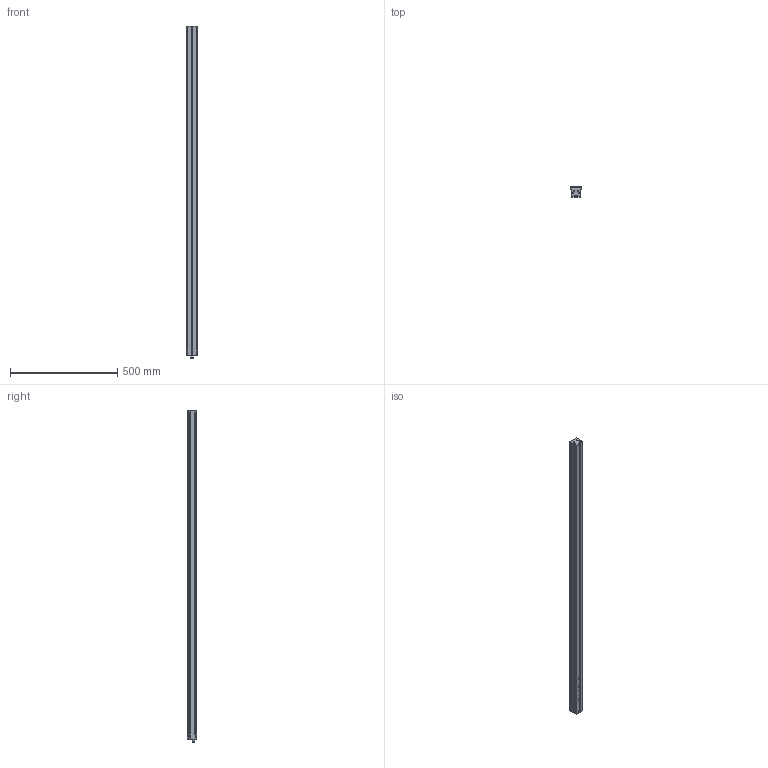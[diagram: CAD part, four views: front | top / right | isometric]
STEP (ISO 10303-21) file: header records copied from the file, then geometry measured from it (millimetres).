
FILE_DESCRIPTION (( 'STEP AP214' ), '1' );
FILE_NAME ('EBAR-HPS-1500-xxx-UN_CLIENT.STEP', '2025-11-18T13:03:27', ( '' ), ( '' ), 'SwSTEP 2.0', 'SolidWorks 2025', '' );
FILE_SCHEMA (( 'AUTOMOTIVE_DESIGN' ));
Length unit declared in the file: millimetre
Products named in the file (3): EBAR-HPS-1500-xxx-UN_CLIENT; EBAR-HPS-xxx-xxx-xx_CLIENT - T-Power_1500; M4 T-Slot Nut
Assembly tree (37 placements, depth 2):
  EBAR-HPS-1500-xxx-UN_CLIENT
    EBAR-HPS-xxx-xxx-xx_CLIENT - T-Power_1500
    M4 T-Slot Nut  x36
Bounding box: 47.63 x 45 x 1545.06 mm (x, y, z)
Volume: 2605374.1 mm3; surface area: 376380 mm2
Topology: 37 solids, 37 shells, 1424 faces, 3688 edges, 2428 vertices
Faces by surface type: plane 799, cylinder 371, bspline 140, torus 62, sphere 40, cone 12
Entity records: 29649 total; most frequent: CARTESIAN_POINT 10335, ORIENTED_EDGE 4138, DIRECTION 3640, EDGE_CURVE 2069, VERTEX_POINT 1343, AXIS2_PLACEMENT_3D 1252, LINE 1136, VECTOR 1136
